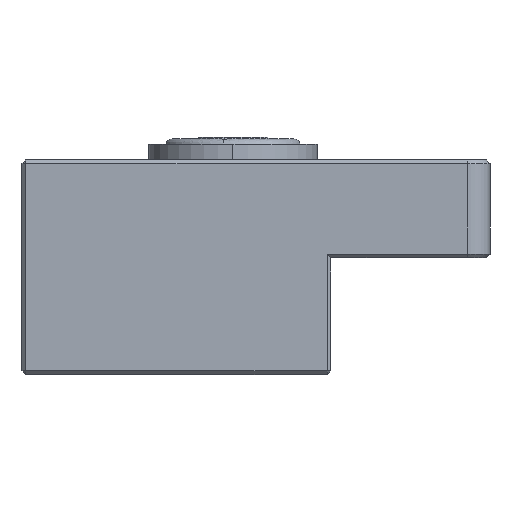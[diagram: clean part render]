
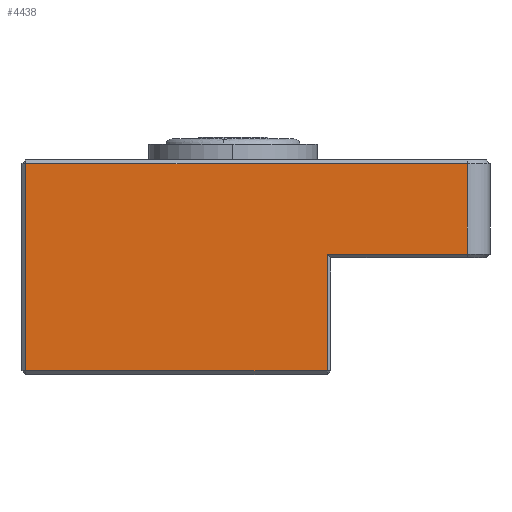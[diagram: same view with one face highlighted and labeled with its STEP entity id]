
A CAD part, left-side view. The second image highlights one B-rep face of the part: STEP entity #4438.
In plain terms, the highlighted planar face has unit normal (-1, 0, 0).
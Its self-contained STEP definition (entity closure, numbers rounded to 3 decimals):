
#73 = CARTESIAN_POINT ( 'NONE',  ( -47.5, -4.5, -0.5 ) ) ;
#103 = LINE ( 'NONE', #3663, #5647 ) ;
#336 = EDGE_CURVE ( 'NONE', #5234, #2572, #1102, .T. ) ;
#669 = DIRECTION ( 'NONE',  ( 0., -1., 0. ) ) ;
#705 = EDGE_LOOP ( 'NONE', ( #763, #5136, #3029, #3671, #1020, #2744 ) ) ;
#763 = ORIENTED_EDGE ( 'NONE', *, *, #336, .T. ) ;
#926 = VECTOR ( 'NONE', #5993, 1000. ) ;
#946 = DIRECTION ( 'NONE',  ( 1., 0., 0. ) ) ;
#993 = VERTEX_POINT ( 'NONE', #5879 ) ;
#1020 = ORIENTED_EDGE ( 'NONE', *, *, #3960, .T. ) ;
#1102 = LINE ( 'NONE', #2000, #926 ) ;
#1115 = VERTEX_POINT ( 'NONE', #6017 ) ;
#1343 = DIRECTION ( 'NONE',  ( 0., 0., -1. ) ) ;
#1649 = VECTOR ( 'NONE', #1343, 1000. ) ;
#1742 = FACE_OUTER_BOUND ( 'NONE', #705, .T. ) ;
#2000 = CARTESIAN_POINT ( 'NONE',  ( -47.5, -44.5, -13. ) ) ;
#2165 = AXIS2_PLACEMENT_3D ( 'NONE', #3444, #946, #4420 ) ;
#2177 = LINE ( 'NONE', #3036, #5003 ) ;
#2229 = CARTESIAN_POINT ( 'NONE',  ( -47.5, -4., -0.5 ) ) ;
#2572 = VERTEX_POINT ( 'NONE', #4550 ) ;
#2603 = EDGE_CURVE ( 'NONE', #2572, #3603, #2177, .T. ) ;
#2685 = EDGE_CURVE ( 'NONE', #1115, #3603, #5925, .T. ) ;
#2729 = DIRECTION ( 'NONE',  ( 0., 0., -1. ) ) ;
#2744 = ORIENTED_EDGE ( 'NONE', *, *, #4656, .T. ) ;
#2770 = VECTOR ( 'NONE', #4068, 1000. ) ;
#2988 = VECTOR ( 'NONE', #3260, 1000. ) ;
#3029 = ORIENTED_EDGE ( 'NONE', *, *, #2685, .F. ) ;
#3036 = CARTESIAN_POINT ( 'NONE',  ( -47.5, -25., -12.5 ) ) ;
#3260 = DIRECTION ( 'NONE',  ( 0., 1., 0. ) ) ;
#3444 = CARTESIAN_POINT ( 'NONE',  ( -47.5, -25., 0. ) ) ;
#3556 = CARTESIAN_POINT ( 'NONE',  ( -47.5, -25., -28. ) ) ;
#3603 = VERTEX_POINT ( 'NONE', #4778 ) ;
#3637 = LINE ( 'NONE', #2229, #2988 ) ;
#3663 = CARTESIAN_POINT ( 'NONE',  ( -47.5, -4.5, 0. ) ) ;
#3671 = ORIENTED_EDGE ( 'NONE', *, *, #3985, .T. ) ;
#3941 = PLANE ( 'NONE',  #2165 ) ;
#3960 = EDGE_CURVE ( 'NONE', #6385, #993, #103, .T. ) ;
#3985 = EDGE_CURVE ( 'NONE', #1115, #6385, #3637, .T. ) ;
#4068 = DIRECTION ( 'NONE',  ( 0., -1., 0. ) ) ;
#4264 = CARTESIAN_POINT ( 'NONE',  ( -47.5, -63.135, -13. ) ) ;
#4288 = CARTESIAN_POINT ( 'NONE',  ( -47.5, -44.5, -28. ) ) ;
#4420 = DIRECTION ( 'NONE',  ( 0., 0., -1. ) ) ;
#4438 = ADVANCED_FACE ( 'NONE', ( #1742 ), #3941, .F. ) ;
#4550 = CARTESIAN_POINT ( 'NONE',  ( -47.5, -44.5, -12.5 ) ) ;
#4656 = EDGE_CURVE ( 'NONE', #993, #5234, #5429, .T. ) ;
#4778 = CARTESIAN_POINT ( 'NONE',  ( -47.5, -63.135, -12.5 ) ) ;
#5003 = VECTOR ( 'NONE', #669, 1000. ) ;
#5136 = ORIENTED_EDGE ( 'NONE', *, *, #2603, .T. ) ;
#5234 = VERTEX_POINT ( 'NONE', #4288 ) ;
#5429 = LINE ( 'NONE', #3556, #2770 ) ;
#5647 = VECTOR ( 'NONE', #2729, 1000. ) ;
#5879 = CARTESIAN_POINT ( 'NONE',  ( -47.5, -4.5, -28. ) ) ;
#5925 = LINE ( 'NONE', #4264, #1649 ) ;
#5993 = DIRECTION ( 'NONE',  ( 0., 0., 1. ) ) ;
#6017 = CARTESIAN_POINT ( 'NONE',  ( -47.5, -63.135, -0.5 ) ) ;
#6385 = VERTEX_POINT ( 'NONE', #73 ) ;
